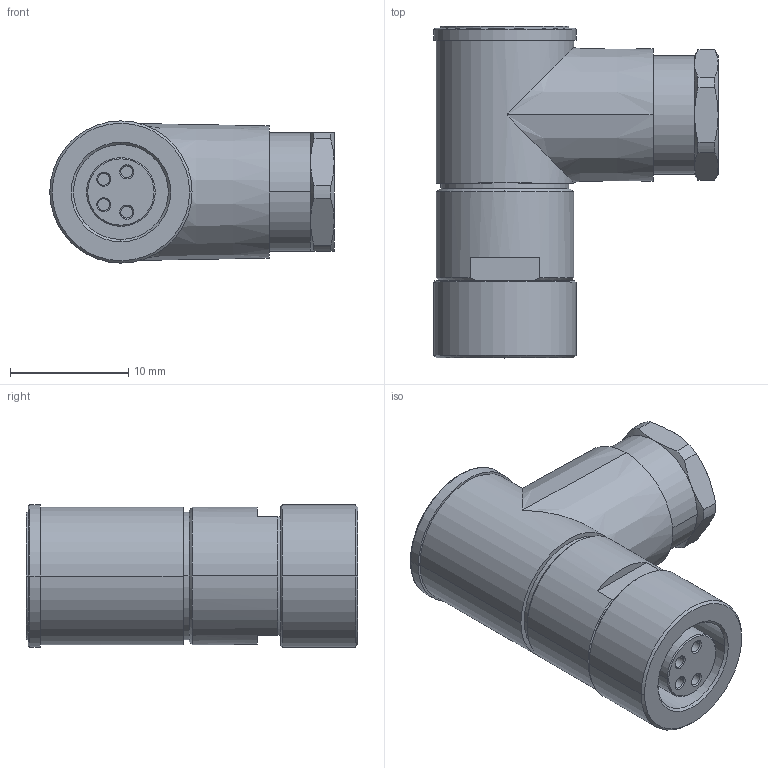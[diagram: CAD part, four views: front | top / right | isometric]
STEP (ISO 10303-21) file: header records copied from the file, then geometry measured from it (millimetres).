
FILE_DESCRIPTION (( 'STEP AP203' ), '1' );
FILE_NAME ('B_5241.step', '2017-07-10T21:12:56', ( '' ), ( '' ), 'SwSTEP 2.0', 'SolidWorks 2015', '' );
FILE_SCHEMA (( 'CONFIG_CONTROL_DESIGN' ));
Length unit declared in the file: millimetre
Products named in the file (2): B_5241
Bounding box: 24 x 28 x 12 mm (x, y, z)
Volume: 3865.6 mm3; surface area: 2184 mm2
Topology: 1 solids, 1 shells, 101 faces, 235 edges, 149 vertices
Faces by surface type: cone 38, cylinder 35, plane 26, torus 2
Entity records: 3257 total; most frequent: CARTESIAN_POINT 739, DIRECTION 538, ORIENTED_EDGE 470, EDGE_CURVE 235, AXIS2_PLACEMENT_3D 232, VERTEX_POINT 149, CIRCLE 129, EDGE_LOOP 114
